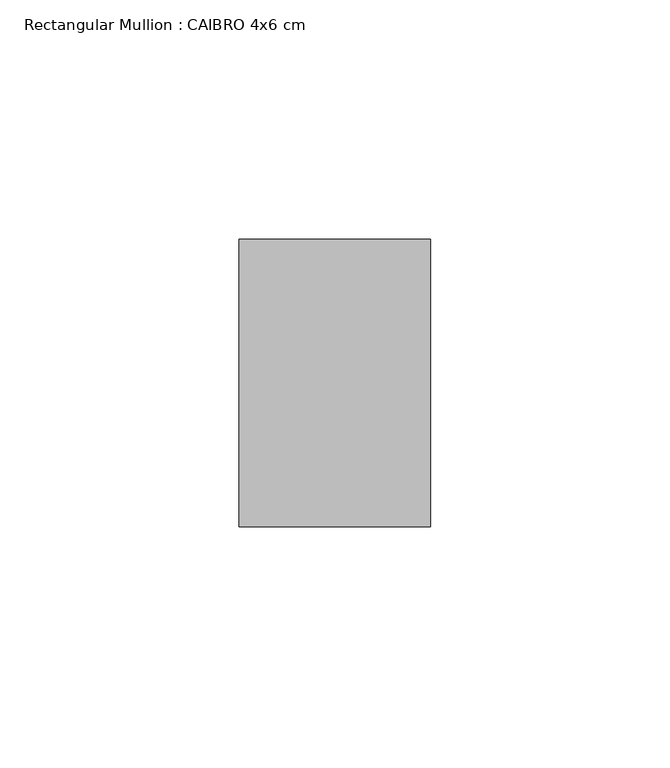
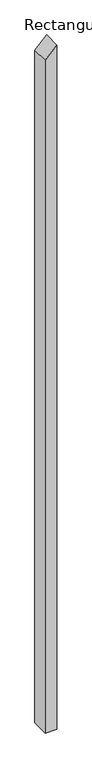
"""IFC4 building model written with IfcOpenShell, lengths in millimetres: member geometry, Rectangular Mullion : CAIBRO 4x6 cm."""

from ifc_helpers import new_model, si_unit, frame, origin, place, context, project, spatial, polyline, outline, extrude, source, transform, mapped, element, save


def rectangular_mullion_caibro_4x6_cm_16606cff(model_context):
    return source(origin(), model_context, "Body", "SweptSolid", [
        extrude(outline(polyline([(-36.6621022, 20.0), (-77.109599, -20.0), (-2491.9745808, -20.0), (-2491.9745808, 20.0), (-36.6621022, 20.0)])), frame((0.0, 0.0, 0.0), z_axis=(0.0, 1.0, 0.0), x_axis=(0.0, 0.0, 1.0)), (0.0, 0.0, 1.0), 60.0),
    ])


if __name__ == "__main__":
    model = new_model("IFC4")
    model_context = context("Model", 3, world=origin())
    ifc_project = project(units=[si_unit("LENGTHUNIT", "METRE", prefix="MILLI")], contexts=[model_context])
    site = spatial("IfcSite", under=ifc_project)
    building = spatial("IfcBuilding", under=site)
    placement = place(None, origin())
    rectangular_mullion_caibro_4x6_cm_shape = rectangular_mullion_caibro_4x6_cm_16606cff(model_context)
    element("IfcMember", 1, ObjectType="Rectangular Mullion : CAIBRO 4x6 cm", at=placement, inside=building, context=model_context, shape_type="MappedRepresentation", body=[
        mapped(rectangular_mullion_caibro_4x6_cm_shape, transform((0.0, 0.0, 0.0), x_axis=(1.0, 0.0, 0.0), y_axis=(0.0, 1.0, 0.0), z_axis=(0.0, 0.0, 1.0))),
    ])
    save(model, "model.ifc")
